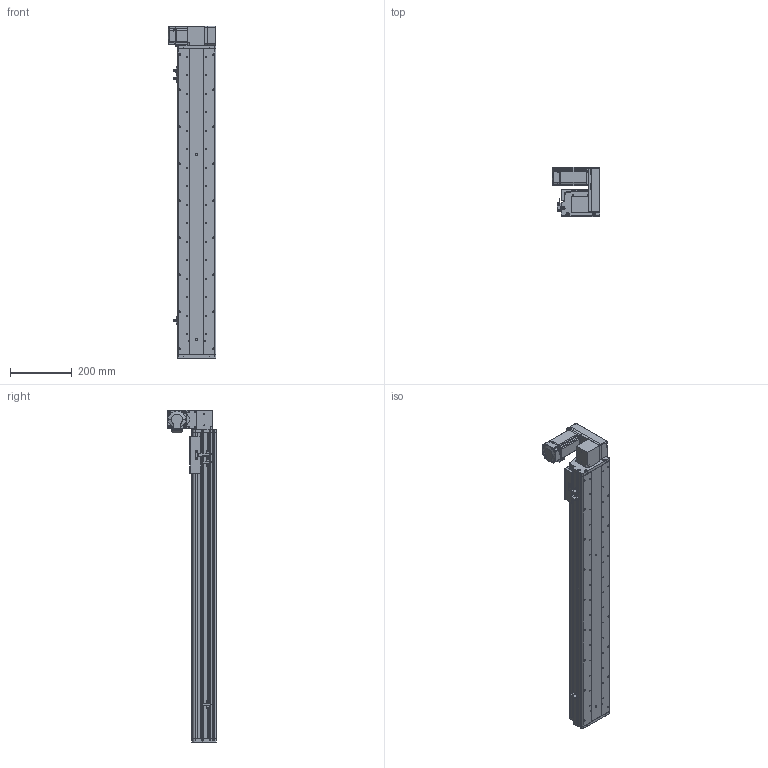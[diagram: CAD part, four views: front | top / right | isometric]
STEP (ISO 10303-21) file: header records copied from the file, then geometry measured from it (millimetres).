
FILE_DESCRIPTION (( 'STEP AP214' ), '1' );
FILE_NAME ('KSD125B-S800-MLU-CM.STEP', '2017-10-21T03:23:27', ( '微软用户' ), ( '微软中国' ), 'SwSTEP 2.0', 'SolidWorks 2014', '' );
FILE_SCHEMA (( 'AUTOMOTIVE_DESIGN' ));
Length unit declared in the file: millimetre
Products named in the file (17): U倰嫖萇假蚾璃; U倰嫖萇EEㄜSX672; KSD125模组同步带-防撞垫1; 前端板-125宽模组同步带; 125模组同步带-尾端板1; KSD125模组同步带-滑动座1; KSD125B-S800-MLU-CM; 悵誘欶奻狟殏; 100宽马达安装板连板上下折丝杆同步带; HTPA30S3M150_A_H6_a佪裝蚚; HTPA30S3M150_A_H6_a萇儂蚚; 100宽马达安装板同步带左; KSD125模组800行程同步带-防尘盖; 125模组800行程同步带-底板; MHMD042G1CA_2_03; KSD125模组同步带-防撞垫2; 覜茼え68遵圉猾敕
Assembly tree (20 placements, depth 2):
  KSD125B-S800-MLU-CM
    KSD125模组同步带-滑动座1
    125模组同步带-尾端板1
    前端板-125宽模组同步带
    KSD125模组同步带-防撞垫1
    U倰嫖萇EEㄜSX672  x3
    U倰嫖萇假蚾璃  x3
    覜茼え68遵圉猾敕
    KSD125模组同步带-防撞垫2
    MHMD042G1CA_2_03
    125模组800行程同步带-底板
    KSD125模组800行程同步带-防尘盖
    100宽马达安装板同步带左
    HTPA30S3M150_A_H6_a萇儂蚚
    HTPA30S3M150_A_H6_a佪裝蚚
    100宽马达安装板连板上下折丝杆同步带
    悵誘欶奻狟殏
Bounding box: 155 x 157.5 x 1077 mm (x, y, z)
Volume: 3390696.3 mm3; surface area: 1152956.8 mm2
Topology: 19 solids, 22 shells, 2289 faces, 6631 edges, 4382 vertices
Faces by surface type: cylinder 1436, plane 726, cone 105, bspline 22
Entity records: 81401 total; most frequent: CARTESIAN_POINT 16077, DIRECTION 12656, ORIENTED_EDGE 11782, EDGE_CURVE 5969, AXIS2_PLACEMENT_3D 4893, VERTEX_POINT 3974, VECTOR 2870, LINE 2870
